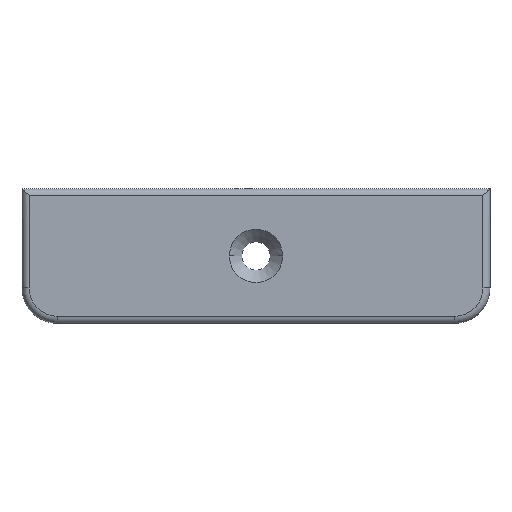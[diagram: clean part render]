
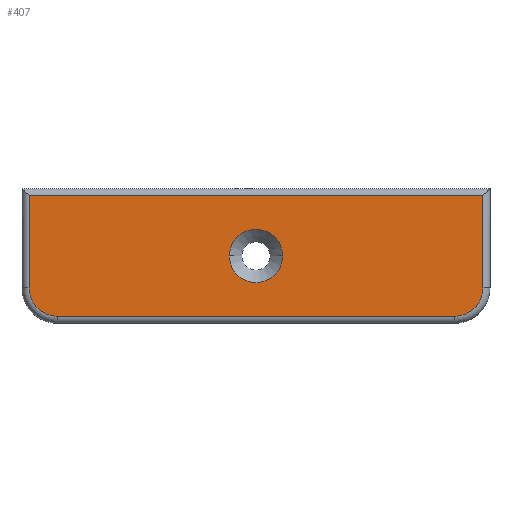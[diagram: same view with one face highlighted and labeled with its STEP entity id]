
A CAD part, top view. The second image highlights one B-rep face of the part: STEP entity #407.
In plain terms, the highlighted planar face has unit normal (0, 0, 1).
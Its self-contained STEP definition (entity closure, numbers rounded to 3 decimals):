
#5 = DIRECTION ( 'NONE',  ( 0., 0., 1. ) ) ;
#6 = CIRCLE ( 'NONE', #678, 3.75 ) ;
#21 = ORIENTED_EDGE ( 'NONE', *, *, #594, .T. ) ;
#32 = AXIS2_PLACEMENT_3D ( 'NONE', #500, #5, #176 ) ;
#41 = ORIENTED_EDGE ( 'NONE', *, *, #296, .T. ) ;
#66 = DIRECTION ( 'NONE',  ( 0., 0., 1. ) ) ;
#89 = ORIENTED_EDGE ( 'NONE', *, *, #541, .T. ) ;
#95 = DIRECTION ( 'NONE',  ( 0., -1., 0. ) ) ;
#96 = VERTEX_POINT ( 'NONE', #692 ) ;
#112 = CARTESIAN_POINT ( 'NONE',  ( 3.75, 0., 5. ) ) ;
#115 = LINE ( 'NONE', #494, #151 ) ;
#128 = VERTEX_POINT ( 'NONE', #163 ) ;
#135 = CARTESIAN_POINT ( 'NONE',  ( -28., -8.5, 5. ) ) ;
#151 = VECTOR ( 'NONE', #440, 1000. ) ;
#158 = FACE_OUTER_BOUND ( 'NONE', #179, .T. ) ;
#160 = CARTESIAN_POINT ( 'NONE',  ( -28., -4.5, 5. ) ) ;
#163 = CARTESIAN_POINT ( 'NONE',  ( 32., 8.5, 5. ) ) ;
#176 = DIRECTION ( 'NONE',  ( 1., 0., 0. ) ) ;
#179 = EDGE_LOOP ( 'NONE', ( #474, #295, #21, #89, #668, #41 ) ) ;
#181 = DIRECTION ( 'NONE',  ( 1., 0., 0. ) ) ;
#185 = CIRCLE ( 'NONE', #577, 4. ) ;
#186 = CARTESIAN_POINT ( 'NONE',  ( 28., -4.5, 5. ) ) ;
#193 = ORIENTED_EDGE ( 'NONE', *, *, #272, .F. ) ;
#205 = EDGE_CURVE ( 'NONE', #456, #128, #115, .T. ) ;
#206 = LINE ( 'NONE', #573, #393 ) ;
#210 = CARTESIAN_POINT ( 'NONE',  ( 32., -4.5, 5. ) ) ;
#213 = EDGE_CURVE ( 'NONE', #225, #276, #538, .T. ) ;
#221 = DIRECTION ( 'NONE',  ( 1., 0., 0. ) ) ;
#225 = VERTEX_POINT ( 'NONE', #112 ) ;
#230 = AXIS2_PLACEMENT_3D ( 'NONE', #160, #373, #635 ) ;
#247 = DIRECTION ( 'NONE',  ( 0., 0., 1. ) ) ;
#263 = PLANE ( 'NONE',  #230 ) ;
#272 = EDGE_CURVE ( 'NONE', #276, #225, #6, .T. ) ;
#273 = CARTESIAN_POINT ( 'NONE',  ( 0., 0., 5. ) ) ;
#276 = VERTEX_POINT ( 'NONE', #590 ) ;
#279 = EDGE_CURVE ( 'NONE', #505, #327, #185, .T. ) ;
#290 = VECTOR ( 'NONE', #490, 1000. ) ;
#295 = ORIENTED_EDGE ( 'NONE', *, *, #205, .T. ) ;
#296 = EDGE_CURVE ( 'NONE', #327, #96, #408, .T. ) ;
#327 = VERTEX_POINT ( 'NONE', #135 ) ;
#348 = EDGE_LOOP ( 'NONE', ( #383, #193 ) ) ;
#354 = CARTESIAN_POINT ( 'NONE',  ( 28., -8.5, 5. ) ) ;
#373 = DIRECTION ( 'NONE',  ( 0., 0., 1. ) ) ;
#379 = AXIS2_PLACEMENT_3D ( 'NONE', #186, #247, #411 ) ;
#383 = ORIENTED_EDGE ( 'NONE', *, *, #213, .F. ) ;
#384 = EDGE_CURVE ( 'NONE', #96, #456, #579, .T. ) ;
#388 = DIRECTION ( 'NONE',  ( 0., 0., 1. ) ) ;
#393 = VECTOR ( 'NONE', #95, 1000. ) ;
#407 = ADVANCED_FACE ( 'NONE', ( #158, #632 ), #263, .T. ) ;
#408 = LINE ( 'NONE', #354, #641 ) ;
#411 = DIRECTION ( 'NONE',  ( 1., 0., 0. ) ) ;
#418 = CARTESIAN_POINT ( 'NONE',  ( -32., -4.5, 5. ) ) ;
#440 = DIRECTION ( 'NONE',  ( 0., 1., 0. ) ) ;
#456 = VERTEX_POINT ( 'NONE', #210 ) ;
#474 = ORIENTED_EDGE ( 'NONE', *, *, #384, .T. ) ;
#490 = DIRECTION ( 'NONE',  ( -1., 0., 0. ) ) ;
#494 = CARTESIAN_POINT ( 'NONE',  ( 32., 9.5, 5. ) ) ;
#500 = CARTESIAN_POINT ( 'NONE',  ( 0., 0., 5. ) ) ;
#505 = VERTEX_POINT ( 'NONE', #418 ) ;
#538 = CIRCLE ( 'NONE', #32, 3.75 ) ;
#541 = EDGE_CURVE ( 'NONE', #655, #505, #206, .T. ) ;
#573 = CARTESIAN_POINT ( 'NONE',  ( -32., -4.5, 5. ) ) ;
#577 = AXIS2_PLACEMENT_3D ( 'NONE', #650, #388, #596 ) ;
#579 = CIRCLE ( 'NONE', #379, 4. ) ;
#590 = CARTESIAN_POINT ( 'NONE',  ( -3.75, 0., 5. ) ) ;
#594 = EDGE_CURVE ( 'NONE', #128, #655, #595, .T. ) ;
#595 = LINE ( 'NONE', #666, #290 ) ;
#596 = DIRECTION ( 'NONE',  ( 1., 0., 0. ) ) ;
#632 = FACE_BOUND ( 'NONE', #348, .T. ) ;
#635 = DIRECTION ( 'NONE',  ( 1., 0., 0. ) ) ;
#641 = VECTOR ( 'NONE', #181, 1000. ) ;
#649 = CARTESIAN_POINT ( 'NONE',  ( -32., 8.5, 5. ) ) ;
#650 = CARTESIAN_POINT ( 'NONE',  ( -28., -4.5, 5. ) ) ;
#655 = VERTEX_POINT ( 'NONE', #649 ) ;
#666 = CARTESIAN_POINT ( 'NONE',  ( -33., 8.5, 5. ) ) ;
#668 = ORIENTED_EDGE ( 'NONE', *, *, #279, .T. ) ;
#678 = AXIS2_PLACEMENT_3D ( 'NONE', #273, #66, #221 ) ;
#692 = CARTESIAN_POINT ( 'NONE',  ( 28., -8.5, 5. ) ) ;
